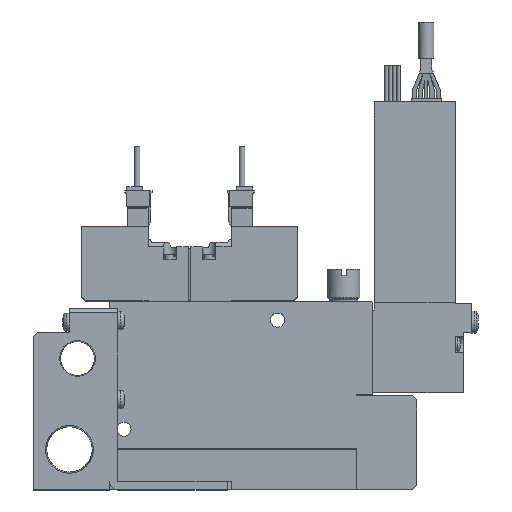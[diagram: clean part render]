
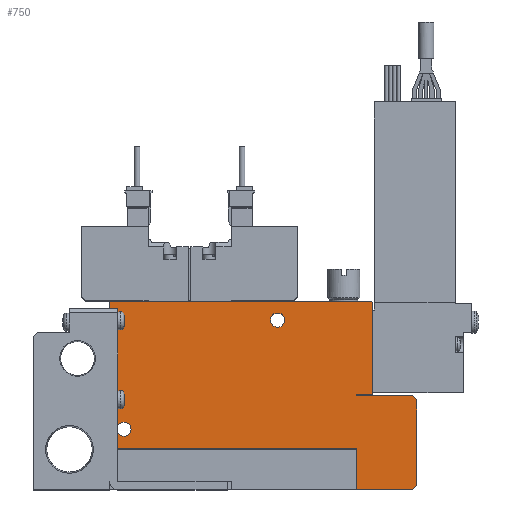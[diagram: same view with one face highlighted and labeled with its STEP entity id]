
A CAD part, top view. The second image highlights one B-rep face of the part: STEP entity #750.
In plain terms, the highlighted planar face has unit normal (0, 0, 1).
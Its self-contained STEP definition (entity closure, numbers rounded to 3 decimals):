
#750=ADVANCED_FACE('',(#1760,#1761,#1762),#1763,.F.);
#1760=FACE_OUTER_BOUND('',#3018,.T.);
#1761=FACE_BOUND('',#3019,.T.);
#1762=FACE_BOUND('',#3020,.T.);
#1763=PLANE('',#3021);
#3018=EDGE_LOOP('',(#6569,#6570,#6571,#6572,#6573,#6574,#6575,#6576,#6577,#6578,#6579,#6580,#6581,#6582));
#3019=EDGE_LOOP('',(#6583));
#3020=EDGE_LOOP('',(#6584));
#3021=AXIS2_PLACEMENT_3D('',#6585,#6586,#6587);
#6569=ORIENTED_EDGE('',*,*,#8683,.T.);
#6570=ORIENTED_EDGE('',*,*,#8759,.F.);
#6571=ORIENTED_EDGE('',*,*,#8745,.F.);
#6572=ORIENTED_EDGE('',*,*,#8753,.T.);
#6573=ORIENTED_EDGE('',*,*,#8734,.T.);
#6574=ORIENTED_EDGE('',*,*,#8671,.T.);
#6575=ORIENTED_EDGE('',*,*,#8716,.T.);
#6576=ORIENTED_EDGE('',*,*,#8755,.T.);
#6577=ORIENTED_EDGE('',*,*,#8751,.T.);
#6578=ORIENTED_EDGE('',*,*,#8712,.T.);
#6579=ORIENTED_EDGE('',*,*,#8708,.T.);
#6580=ORIENTED_EDGE('',*,*,#8675,.T.);
#6581=ORIENTED_EDGE('',*,*,#8754,.T.);
#6582=ORIENTED_EDGE('',*,*,#8749,.T.);
#6583=ORIENTED_EDGE('',*,*,#8756,.F.);
#6584=ORIENTED_EDGE('',*,*,#8721,.F.);
#6585=CARTESIAN_POINT('',(0.0,0.0,5.0));
#6586=DIRECTION('',(0.0,0.0,-1.0));
#6587=DIRECTION('',(0.0,-1.0,0.0));
#8671=EDGE_CURVE('',#10643,#10641,#10644,.T.);
#8675=EDGE_CURVE('',#10651,#10649,#10652,.T.);
#8683=EDGE_CURVE('',#10667,#10665,#10668,.T.);
#8708=EDGE_CURVE('',#10707,#10651,#10708,.T.);
#8712=EDGE_CURVE('',#10713,#10707,#10714,.T.);
#8716=EDGE_CURVE('',#10641,#10718,#10720,.T.);
#8721=EDGE_CURVE('',#10728,#10728,#10729,.T.);
#8734=EDGE_CURVE('',#10750,#10643,#10751,.T.);
#8745=EDGE_CURVE('',#10764,#10766,#10767,.T.);
#8749=EDGE_CURVE('',#10771,#10667,#10772,.T.);
#8751=EDGE_CURVE('',#10774,#10713,#10775,.T.);
#8753=EDGE_CURVE('',#10764,#10750,#10777,.T.);
#8754=EDGE_CURVE('',#10649,#10771,#10778,.T.);
#8755=EDGE_CURVE('',#10718,#10774,#10779,.T.);
#8756=EDGE_CURVE('',#10780,#10780,#10781,.T.);
#8759=EDGE_CURVE('',#10766,#10665,#10784,.T.);
#10641=VERTEX_POINT('',#13838);
#10643=VERTEX_POINT('',#13841);
#10644=LINE('',#13842,#13843);
#10649=VERTEX_POINT('',#13850);
#10651=VERTEX_POINT('',#13853);
#10652=LINE('',#13854,#13855);
#10665=VERTEX_POINT('',#13874);
#10667=VERTEX_POINT('',#13877);
#10668=LINE('',#13878,#13879);
#10707=VERTEX_POINT('',#13932);
#10708=LINE('',#13933,#13934);
#10713=VERTEX_POINT('',#13942);
#10714=LINE('',#13943,#13944);
#10718=VERTEX_POINT('',#13950);
#10720=LINE('',#13953,#13954);
#10728=VERTEX_POINT('',#13963);
#10729=CIRCLE('',#13964,1.75);
#10750=VERTEX_POINT('',#13996);
#10751=LINE('',#13997,#13998);
#10764=VERTEX_POINT('',#14018);
#10766=VERTEX_POINT('',#14021);
#10767=LINE('',#14022,#14023);
#10771=VERTEX_POINT('',#14030);
#10772=LINE('',#14031,#14032);
#10774=VERTEX_POINT('',#14035);
#10775=LINE('',#14036,#14037);
#10777=LINE('',#14040,#14041);
#10778=LINE('',#14042,#14043);
#10779=LINE('',#14044,#14045);
#10780=VERTEX_POINT('',#14046);
#10781=CIRCLE('',#14047,1.75);
#10784=LINE('',#14052,#14053);
#13838=CARTESIAN_POINT('',(76.0,22.25,5.0));
#13841=CARTESIAN_POINT('',(76.0,1.0,5.0));
#13842=CARTESIAN_POINT('',(76.0,1.0,5.0));
#13843=VECTOR('',#16615,1.0);
#13850=CARTESIAN_POINT('',(64.8,46.6,5.0));
#13853=CARTESIAN_POINT('',(65.0,46.4,5.0));
#13854=CARTESIAN_POINT('',(65.0,46.4,5.0));
#13855=VECTOR('',#16619,1.0);
#13874=CARTESIAN_POINT('',(0.0,10.1,5.0));
#13877=CARTESIAN_POINT('',(0.0,46.4,5.0));
#13878=CARTESIAN_POINT('',(0.0,46.4,5.0));
#13879=VECTOR('',#16627,1.0);
#13932=CARTESIAN_POINT('',(65.0,23.5,5.0));
#13933=CARTESIAN_POINT('',(65.0,23.5,5.0));
#13934=VECTOR('',#16672,1.0);
#13942=CARTESIAN_POINT('',(61.0,23.5,5.0));
#13943=CARTESIAN_POINT('',(61.0,23.5,5.0));
#13944=VECTOR('',#16676,1.0);
#13950=CARTESIAN_POINT('',(75.0,23.25,5.0));
#13953=CARTESIAN_POINT('',(76.0,22.25,5.0));
#13954=VECTOR('',#16680,1.0);
#13963=CARTESIAN_POINT('',(43.25,42.0,5.0));
#13964=AXIS2_PLACEMENT_3D('',#16691,#16692,#16693);
#13996=CARTESIAN_POINT('',(75.0,0.0,5.0));
#13997=CARTESIAN_POINT('',(75.0,0.0,5.0));
#13998=VECTOR('',#16708,1.0);
#14018=CARTESIAN_POINT('',(61.1,0.0,5.0));
#14021=CARTESIAN_POINT('',(61.1,10.1,5.0));
#14022=CARTESIAN_POINT('',(61.1,0.0,5.0));
#14023=VECTOR('',#16723,1.0);
#14030=CARTESIAN_POINT('',(0.2,46.6,5.0));
#14031=CARTESIAN_POINT('',(0.2,46.6,5.0));
#14032=VECTOR('',#16727,1.0);
#14035=CARTESIAN_POINT('',(61.0,23.25,5.0));
#14036=CARTESIAN_POINT('',(61.0,23.25,5.0));
#14037=VECTOR('',#16729,1.0);
#14040=CARTESIAN_POINT('',(0.0,0.0,5.0));
#14041=VECTOR('',#16731,1.0);
#14042=CARTESIAN_POINT('',(64.8,46.6,5.0));
#14043=VECTOR('',#16732,1.0);
#14044=CARTESIAN_POINT('',(75.0,23.25,5.0));
#14045=VECTOR('',#16733,1.0);
#14046=CARTESIAN_POINT('',(5.25,15.0,5.0));
#14047=AXIS2_PLACEMENT_3D('',#16734,#16735,#16736);
#14052=CARTESIAN_POINT('',(61.1,10.1,5.0));
#14053=VECTOR('',#16739,1.0);
#16615=DIRECTION('',(0.0,1.0,0.0));
#16619=DIRECTION('',(-0.707,0.707,0.0));
#16627=DIRECTION('',(0.0,-1.0,0.0));
#16672=DIRECTION('',(0.0,1.0,0.0));
#16676=DIRECTION('',(1.0,0.,0.0));
#16680=DIRECTION('',(-0.707,0.707,0.0));
#16691=CARTESIAN_POINT('',(41.5,42.0,5.0));
#16692=DIRECTION('',(0.0,0.0,1.0));
#16693=DIRECTION('',(1.0,0.0,0.0));
#16708=DIRECTION('',(0.707,0.707,0.0));
#16723=DIRECTION('',(0.0,1.0,0.0));
#16727=DIRECTION('',(-0.707,-0.707,0.0));
#16729=DIRECTION('',(0.0,1.0,0.0));
#16731=DIRECTION('',(1.0,0.0,0.0));
#16732=DIRECTION('',(-1.0,0.0,0.0));
#16733=DIRECTION('',(-1.0,0.0,0.0));
#16734=CARTESIAN_POINT('',(3.5,15.0,5.0));
#16735=DIRECTION('',(0.0,0.0,1.0));
#16736=DIRECTION('',(1.0,0.0,0.0));
#16739=DIRECTION('',(-1.0,0.0,0.0));
